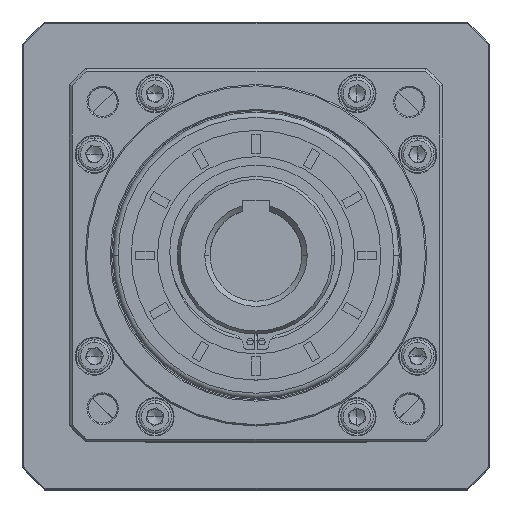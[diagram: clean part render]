
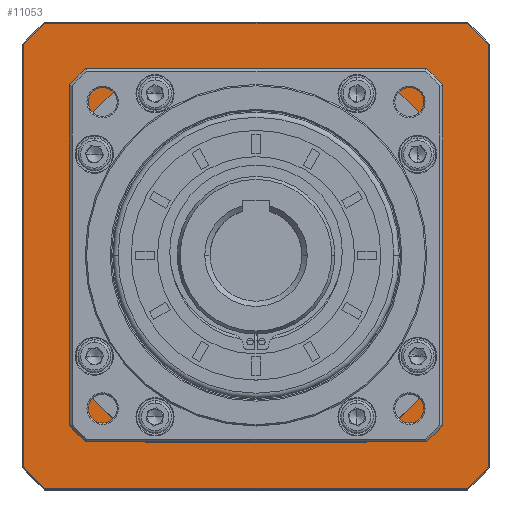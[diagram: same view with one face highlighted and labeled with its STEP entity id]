
A CAD part, top view. The second image highlights one B-rep face of the part: STEP entity #11053.
In plain terms, the highlighted planar face has unit normal (0, 0, 1).
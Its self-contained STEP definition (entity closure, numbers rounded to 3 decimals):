
#2419 = CARTESIAN_POINT ( 'NONE',  ( 206.895, 52.094, 29.727 ) ) ;
#2788 = CARTESIAN_POINT ( 'NONE',  ( 135.895, 122.594, 29.727 ) ) ;
#2983 = EDGE_CURVE ( 'NONE', #67132, #10254, #13203, .T. ) ;
#3106 = CARTESIAN_POINT ( 'NONE',  ( 47.395, 42.294, 29.727 ) ) ;
#3474 = DIRECTION ( 'NONE',  ( 0., 0., -1. ) ) ;
#3767 = ORIENTED_EDGE ( 'NONE', *, *, #12659, .F. ) ;
#4942 = VERTEX_POINT ( 'NONE', #73606 ) ;
#5092 = VERTEX_POINT ( 'NONE', #30126 ) ;
#5303 = ORIENTED_EDGE ( 'NONE', *, *, #23533, .F. ) ;
#5570 = EDGE_CURVE ( 'NONE', #92701, #81054, #13138, .T. ) ;
#6749 = EDGE_CURVE ( 'NONE', #5092, #100693, #32205, .T. ) ;
#6931 = CARTESIAN_POINT ( 'NONE',  ( 135.895, 122.594, 29.727 ) ) ;
#10254 = VERTEX_POINT ( 'NONE', #110378 ) ;
#11053 = ADVANCED_FACE ( 'NONE', ( #25908, #91221 ), #38714, .F. ) ;
#11185 = AXIS2_PLACEMENT_3D ( 'NONE', #6931, #23605, #78326 ) ;
#11952 = CIRCLE ( 'NONE', #91857, 82. ) ;
#12659 = EDGE_CURVE ( 'NONE', #108255, #105950, #104190, .T. ) ;
#12885 = CARTESIAN_POINT ( 'NONE',  ( 94.017, 193.094, 29.727 ) ) ;
#13138 = LINE ( 'NONE', #28460, #74185 ) ;
#13203 = CIRCLE ( 'NONE', #51600, 82. ) ;
#13807 = LINE ( 'NONE', #60657, #19406 ) ;
#14181 = CARTESIAN_POINT ( 'NONE',  ( 224.395, 42.294, 29.727 ) ) ;
#14954 = DIRECTION ( 'NONE',  ( 0., -1., 0. ) ) ;
#15426 = VERTEX_POINT ( 'NONE', #18691 ) ;
#15546 = EDGE_CURVE ( 'NONE', #104337, #67132, #22503, .T. ) ;
#16657 = DIRECTION ( 'NONE',  ( 1., 0., 0. ) ) ;
#16805 = DIRECTION ( 'NONE',  ( -1., 0., 0. ) ) ;
#17721 = VECTOR ( 'NONE', #79411, 1000. ) ;
#18152 = ORIENTED_EDGE ( 'NONE', *, *, #46813, .F. ) ;
#18691 = CARTESIAN_POINT ( 'NONE',  ( 206.395, 164.471, 29.727 ) ) ;
#19406 = VECTOR ( 'NONE', #25291, 1000. ) ;
#20164 = VERTEX_POINT ( 'NONE', #98668 ) ;
#20489 = DIRECTION ( 'NONE',  ( -1., 0., 0. ) ) ;
#21783 = ORIENTED_EDGE ( 'NONE', *, *, #53612, .F. ) ;
#22130 = ORIENTED_EDGE ( 'NONE', *, *, #48185, .F. ) ;
#22503 = LINE ( 'NONE', #2419, #62866 ) ;
#23049 = VERTEX_POINT ( 'NONE', #93882 ) ;
#23533 = EDGE_CURVE ( 'NONE', #10254, #15426, #114645, .T. ) ;
#23605 = DIRECTION ( 'NONE',  ( 0., 0., -1. ) ) ;
#24077 = DIRECTION ( 'NONE',  ( 0., 1., 0. ) ) ;
#25194 = DIRECTION ( 'NONE',  ( 0., 0., 1. ) ) ;
#25291 = DIRECTION ( 'NONE',  ( 0., -1., 0. ) ) ;
#25908 = FACE_OUTER_BOUND ( 'NONE', #48789, .T. ) ;
#26476 = EDGE_CURVE ( 'NONE', #15426, #5092, #99694, .T. ) ;
#28460 = CARTESIAN_POINT ( 'NONE',  ( 135.895, 211.094, 29.727 ) ) ;
#28698 = ORIENTED_EDGE ( 'NONE', *, *, #66166, .F. ) ;
#29437 = VECTOR ( 'NONE', #51429, 1000. ) ;
#29731 = DIRECTION ( 'NONE',  ( 1., 0., 0. ) ) ;
#30126 = CARTESIAN_POINT ( 'NONE',  ( 177.773, 193.094, 29.727 ) ) ;
#30211 = DIRECTION ( 'NONE',  ( -1., 0., 0. ) ) ;
#30641 = DIRECTION ( 'NONE',  ( 1., 0., 0. ) ) ;
#30738 = VERTEX_POINT ( 'NONE', #94778 ) ;
#30876 = ORIENTED_EDGE ( 'NONE', *, *, #50752, .F. ) ;
#31506 = VERTEX_POINT ( 'NONE', #112935 ) ;
#32205 = LINE ( 'NONE', #104582, #29437 ) ;
#33502 = DIRECTION ( 'NONE',  ( 0., 0., 1. ) ) ;
#33593 = DIRECTION ( 'NONE',  ( 0., 0., 1. ) ) ;
#34647 = DIRECTION ( 'NONE',  ( 0., -1., 0. ) ) ;
#34798 = CARTESIAN_POINT ( 'NONE',  ( 135.895, 34.094, 29.727 ) ) ;
#35101 = ORIENTED_EDGE ( 'NONE', *, *, #72030, .F. ) ;
#36315 = CIRCLE ( 'NONE', #101865, 82. ) ;
#38714 = PLANE ( 'NONE',  #80862 ) ;
#40356 = CARTESIAN_POINT ( 'NONE',  ( 216.194, 34.094, 29.727 ) ) ;
#41005 = CARTESIAN_POINT ( 'NONE',  ( 135.895, 122.594, 29.727 ) ) ;
#42787 = CARTESIAN_POINT ( 'NONE',  ( 65.395, 51.594, 29.727 ) ) ;
#43431 = CIRCLE ( 'NONE', #100344, 119.5 ) ;
#43679 = VECTOR ( 'NONE', #34647, 1000. ) ;
#45465 = LINE ( 'NONE', #34798, #17721 ) ;
#46741 = DIRECTION ( 'NONE',  ( 0., 0., 1. ) ) ;
#46813 = EDGE_CURVE ( 'NONE', #81054, #4942, #74984, .T. ) ;
#48185 = EDGE_CURVE ( 'NONE', #105950, #20164, #45465, .T. ) ;
#48789 = EDGE_LOOP ( 'NONE', ( #22130, #3767, #30876, #18152, #56266, #81291, #28698, #115056 ) ) ;
#49214 = EDGE_CURVE ( 'NONE', #20164, #102235, #70127, .T. ) ;
#49865 = EDGE_CURVE ( 'NONE', #31506, #92701, #43431, .T. ) ;
#50042 = EDGE_CURVE ( 'NONE', #30738, #104337, #36315, .T. ) ;
#50752 = EDGE_CURVE ( 'NONE', #4942, #108255, #13807, .T. ) ;
#51429 = DIRECTION ( 'NONE',  ( -1., 0., 0. ) ) ;
#51600 = AXIS2_PLACEMENT_3D ( 'NONE', #60949, #25194, #16657 ) ;
#52537 = DIRECTION ( 'NONE',  ( 0., 0., -1. ) ) ;
#53612 = EDGE_CURVE ( 'NONE', #100693, #23049, #11952, .T. ) ;
#55077 = ORIENTED_EDGE ( 'NONE', *, *, #50042, .F. ) ;
#55317 = CARTESIAN_POINT ( 'NONE',  ( 177.773, 52.094, 29.727 ) ) ;
#56266 = ORIENTED_EDGE ( 'NONE', *, *, #5570, .F. ) ;
#57663 = ORIENTED_EDGE ( 'NONE', *, *, #15546, .F. ) ;
#59453 = CARTESIAN_POINT ( 'NONE',  ( 47.395, 122.594, 29.727 ) ) ;
#59712 = ORIENTED_EDGE ( 'NONE', *, *, #26476, .F. ) ;
#60657 = CARTESIAN_POINT ( 'NONE',  ( 224.395, 122.594, 29.727 ) ) ;
#60949 = CARTESIAN_POINT ( 'NONE',  ( 135.895, 122.594, 29.727 ) ) ;
#62866 = VECTOR ( 'NONE', #30641, 1000. ) ;
#65762 = CARTESIAN_POINT ( 'NONE',  ( 206.395, 51.594, 29.727 ) ) ;
#65851 = CARTESIAN_POINT ( 'NONE',  ( 135.895, 122.594, 29.727 ) ) ;
#66166 = EDGE_CURVE ( 'NONE', #102235, #31506, #105152, .T. ) ;
#67132 = VERTEX_POINT ( 'NONE', #55317 ) ;
#67381 = VECTOR ( 'NONE', #100717, 1000. ) ;
#70063 = CARTESIAN_POINT ( 'NONE',  ( 135.895, 122.594, 29.727 ) ) ;
#70127 = CIRCLE ( 'NONE', #83135, 119.5 ) ;
#70707 = AXIS2_PLACEMENT_3D ( 'NONE', #77363, #33502, #104898 ) ;
#72030 = EDGE_CURVE ( 'NONE', #23049, #30738, #85334, .T. ) ;
#73606 = CARTESIAN_POINT ( 'NONE',  ( 224.395, 202.893, 29.727 ) ) ;
#74012 = DIRECTION ( 'NONE',  ( 0., 0., -1. ) ) ;
#74185 = VECTOR ( 'NONE', #81979, 1000. ) ;
#74984 = CIRCLE ( 'NONE', #111926, 119.5 ) ;
#77363 = CARTESIAN_POINT ( 'NONE',  ( 135.895, 122.594, 29.727 ) ) ;
#77730 = CARTESIAN_POINT ( 'NONE',  ( 94.017, 52.094, 29.727 ) ) ;
#77831 = CARTESIAN_POINT ( 'NONE',  ( 135.895, 122.594, 29.727 ) ) ;
#78326 = DIRECTION ( 'NONE',  ( -1., 0., 0. ) ) ;
#78406 = CARTESIAN_POINT ( 'NONE',  ( 55.595, 211.094, 29.727 ) ) ;
#79411 = DIRECTION ( 'NONE',  ( -1., 0., 0. ) ) ;
#80862 = AXIS2_PLACEMENT_3D ( 'NONE', #100881, #3474, #30211 ) ;
#81054 = VERTEX_POINT ( 'NONE', #88329 ) ;
#81291 = ORIENTED_EDGE ( 'NONE', *, *, #49865, .F. ) ;
#81979 = DIRECTION ( 'NONE',  ( 1., 0., 0. ) ) ;
#83135 = AXIS2_PLACEMENT_3D ( 'NONE', #2788, #100967, #109840 ) ;
#85334 = LINE ( 'NONE', #42787, #43679 ) ;
#87921 = ORIENTED_EDGE ( 'NONE', *, *, #2983, .F. ) ;
#88329 = CARTESIAN_POINT ( 'NONE',  ( 216.194, 211.094, 29.727 ) ) ;
#91221 = FACE_BOUND ( 'NONE', #96632, .T. ) ;
#91857 = AXIS2_PLACEMENT_3D ( 'NONE', #41005, #46741, #29731 ) ;
#92701 = VERTEX_POINT ( 'NONE', #78406 ) ;
#93882 = CARTESIAN_POINT ( 'NONE',  ( 65.395, 164.471, 29.727 ) ) ;
#94778 = CARTESIAN_POINT ( 'NONE',  ( 65.395, 80.716, 29.727 ) ) ;
#96632 = EDGE_LOOP ( 'NONE', ( #59712, #5303, #87921, #57663, #55077, #35101, #21783, #107552 ) ) ;
#98668 = CARTESIAN_POINT ( 'NONE',  ( 55.595, 34.094, 29.727 ) ) ;
#99694 = CIRCLE ( 'NONE', #70707, 82. ) ;
#100344 = AXIS2_PLACEMENT_3D ( 'NONE', #65851, #74012, #20489 ) ;
#100693 = VERTEX_POINT ( 'NONE', #12885 ) ;
#100717 = DIRECTION ( 'NONE',  ( 0., 1., 0. ) ) ;
#100881 = CARTESIAN_POINT ( 'NONE',  ( 135.895, 122.594, 29.727 ) ) ;
#100967 = DIRECTION ( 'NONE',  ( 0., 0., -1. ) ) ;
#101865 = AXIS2_PLACEMENT_3D ( 'NONE', #77831, #33593, #14954 ) ;
#102235 = VERTEX_POINT ( 'NONE', #3106 ) ;
#104190 = CIRCLE ( 'NONE', #11185, 119.5 ) ;
#104337 = VERTEX_POINT ( 'NONE', #77730 ) ;
#104582 = CARTESIAN_POINT ( 'NONE',  ( 206.895, 193.094, 29.727 ) ) ;
#104898 = DIRECTION ( 'NONE',  ( 0., -1., 0. ) ) ;
#105152 = LINE ( 'NONE', #59453, #112057 ) ;
#105950 = VERTEX_POINT ( 'NONE', #40356 ) ;
#107552 = ORIENTED_EDGE ( 'NONE', *, *, #6749, .F. ) ;
#108255 = VERTEX_POINT ( 'NONE', #14181 ) ;
#109840 = DIRECTION ( 'NONE',  ( -1., 0., 0. ) ) ;
#110378 = CARTESIAN_POINT ( 'NONE',  ( 206.395, 80.716, 29.727 ) ) ;
#111926 = AXIS2_PLACEMENT_3D ( 'NONE', #70063, #52537, #16805 ) ;
#112057 = VECTOR ( 'NONE', #24077, 1000. ) ;
#112935 = CARTESIAN_POINT ( 'NONE',  ( 47.395, 202.893, 29.727 ) ) ;
#114645 = LINE ( 'NONE', #65762, #67381 ) ;
#115056 = ORIENTED_EDGE ( 'NONE', *, *, #49214, .F. ) ;
